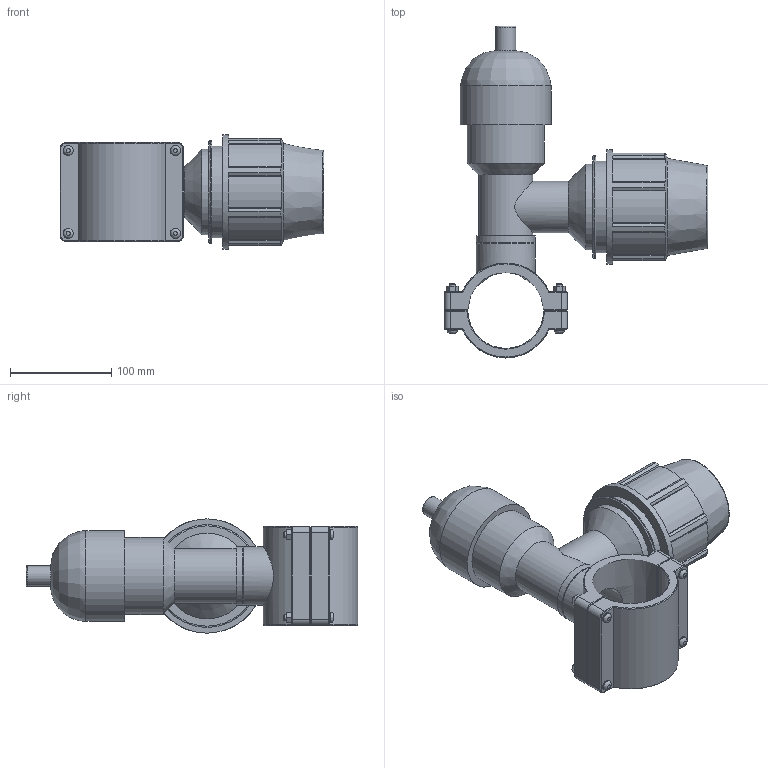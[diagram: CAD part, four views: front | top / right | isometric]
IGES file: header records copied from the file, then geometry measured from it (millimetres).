
Global section: file name: 186800075063.ipt; native system: Autodesk Inventor 2015; preprocessor: unknown; author: KIM; date: 20170618.094018; units: millimetre
Bounding box: 261 x 328.38 x 113 mm (x, y, z)
Volume: 1588693.3 mm3; surface area: 247697.7 mm2
Topology: 1 solids, 1 shells, 227 faces, 562 edges, 362 vertices
Faces by surface type: plane 136, cylinder 44, cone 29, revolution 18
Full cylindrical faces by diameter (mm): 6 x4, 10 x8, 19.976 x1, 44.845 x1, 50.85 x1, 53.814 x1, 58.298 x2, 76.237 x1, 84.75 x1, 89.69 x1, 90.4 x1, 101.7 x1, 113 x1
